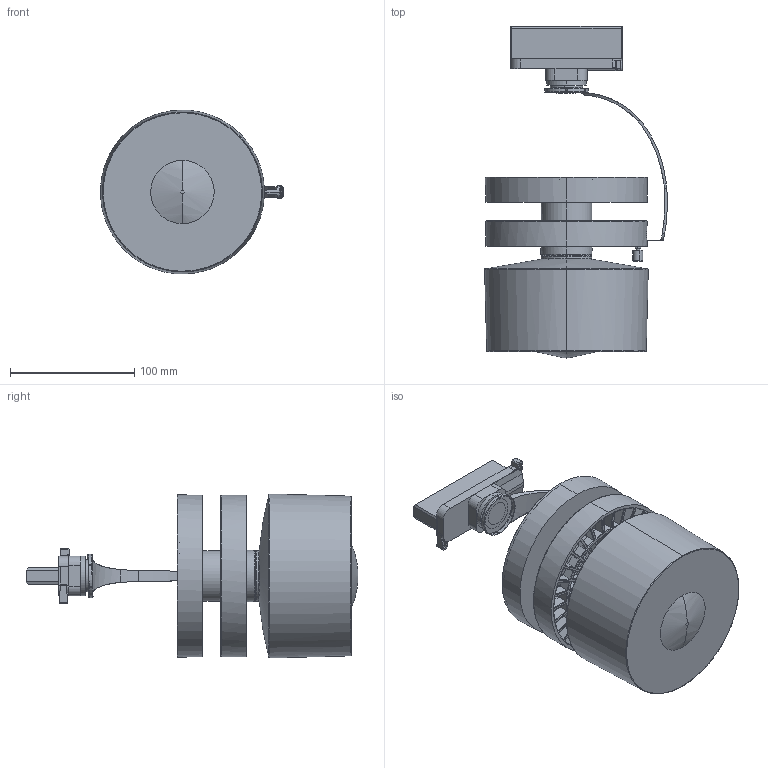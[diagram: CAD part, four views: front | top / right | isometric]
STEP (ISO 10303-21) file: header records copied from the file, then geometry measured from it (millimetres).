
FILE_DESCRIPTION(/* description */ (''),/* implementation_level */ '2;1');
FILE_NAME(/* name */ 'BA2WXYZ - CATA TRACK - OPTIC 14°',/* time_stamp */ '2018-03-01T11:52:49+01:00',/* author */ (''),/* organization */ (''),/* preprocessor_version */ 'ST-DEVELOPER v15',/* originating_system */ '',/* authorisation */ '');
FILE_SCHEMA (('CONFIG_CONTROL_DESIGN'));
Length unit declared in the file: millimetre
Products named in the file (1): Document
Bounding box: 147.19 x 267.25 x 132 mm (x, y, z)
Volume: 136918.2 mm3; surface area: 262525.8 mm2
Topology: 9 solids, 66 shells, 1399 faces, 3527 edges, 2149 vertices
Faces by surface type: bspline 1007, plane 392
Entity records: 70039 total; most frequent: CARTESIAN_POINT 49595, ORIENTED_EDGE 6592, EDGE_CURVE 3517, B_SPLINE_CURVE_WITH_KNOTS 2259, VERTEX_POINT 2149, EDGE_LOOP 1548, ADVANCED_FACE 1397, FACE_OUTER_BOUND 1397
